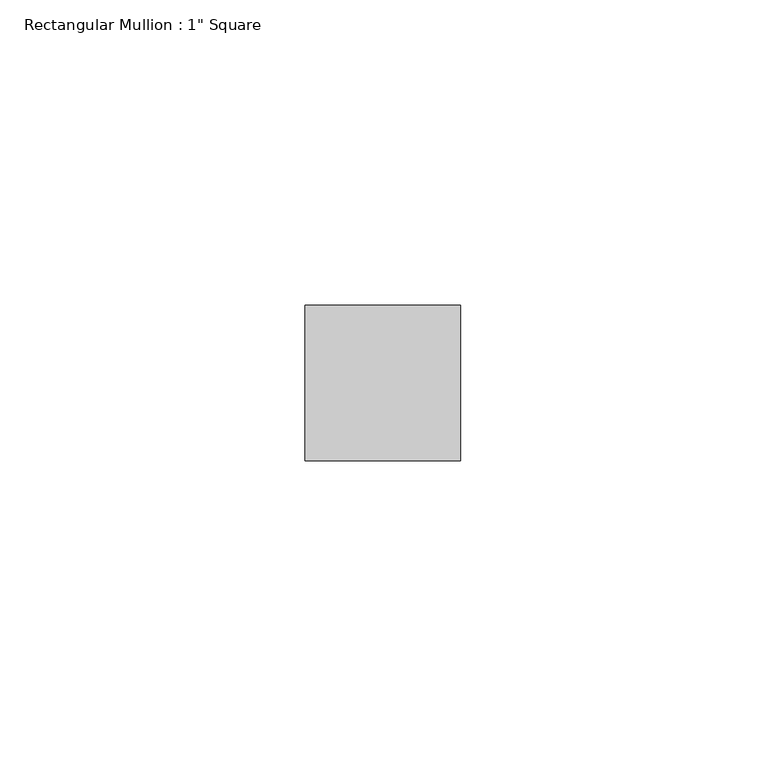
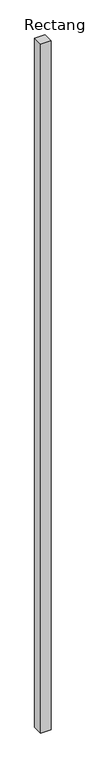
"""IFC4 building model written with IfcOpenShell, lengths in millimetres: member geometry."""

from ifc_helpers import new_model, si_unit, frame, origin, place, context, project, spatial, polyline, outline, extrude, source, transform, mapped, element, save


def member_bff08ed3(model_context):
    return source(origin(), model_context, "Body", "SweptSolid", [
        extrude(outline(polyline([(0.0, 12.7), (0.0, -12.7), (-25.4, -12.7), (-25.4, 12.7), (0.0, 12.7)])), frame((0.0, 0.0, -1775.9100124), z_axis=(0.0, 0.0, 1.0), x_axis=(1.0, 0.0, 0.0)), (0.0, 0.0, 1.0), 1775.9100124),
    ])


if __name__ == "__main__":
    model = new_model("IFC4")
    model_context = context("Model", 3, world=origin())
    ifc_project = project(units=[si_unit("LENGTHUNIT", "METRE", prefix="MILLI")], contexts=[model_context])
    site = spatial("IfcSite", under=ifc_project)
    building = spatial("IfcBuilding", under=site)
    placement = place(None, origin())
    member_shape = member_bff08ed3(model_context)
    element("IfcMember", 1, ObjectType="Rectangular Mullion : 1\" Square", at=placement, inside=building, context=model_context, shape_type="MappedRepresentation", body=[
        mapped(member_shape, transform((0.0, 0.0, 0.0), x_axis=(1.0, 0.0, 0.0), y_axis=(0.0, 1.0, 0.0), z_axis=(0.0, 0.0, 1.0))),
    ])
    save(model, "model.ifc")
